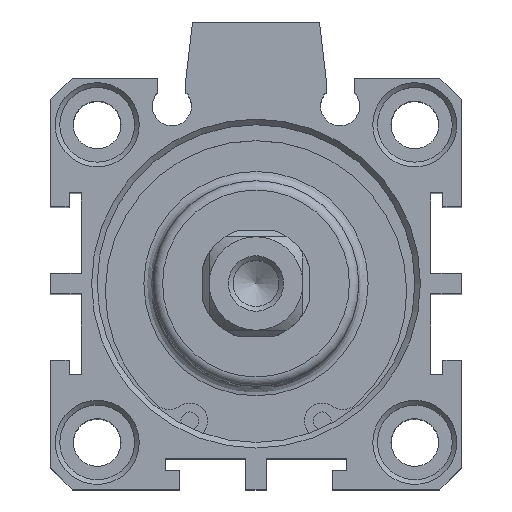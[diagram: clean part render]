
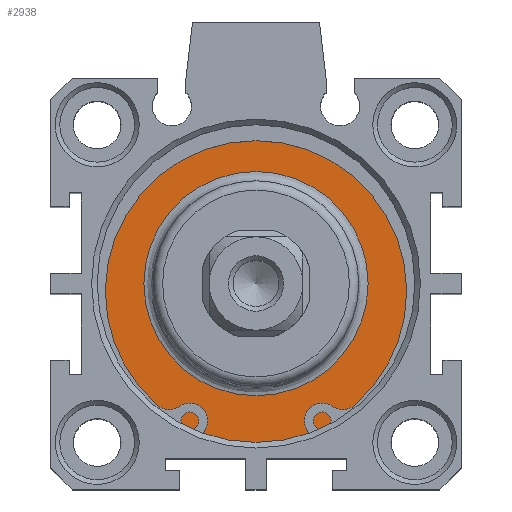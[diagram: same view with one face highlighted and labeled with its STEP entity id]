
A CAD part, top view. The second image highlights one B-rep face of the part: STEP entity #2938.
In plain terms, the highlighted planar face has unit normal (0, 0, 1).
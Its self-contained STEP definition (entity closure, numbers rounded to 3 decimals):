
#2887=CARTESIAN_POINT('',(-3.726,11.88,50.3));
#2888=VERTEX_POINT('',#2887);
#2889=CARTESIAN_POINT('',(-3.726,-0.12,50.3));
#2890=DIRECTION('',(0.0,0.0,1.0));
#2891=DIRECTION('',(0.0,-1.0,0.0));
#2892=AXIS2_PLACEMENT_3D('',#2889,#2890,#2891);
#2893=CIRCLE('',#2892,12.);
#2894=EDGE_CURVE('',#2888,#2888,#2893,.T.);
#2919=CARTESIAN_POINT('',(-3.726,13.88,50.3));
#2920=DIRECTION('',(0.0,0.0,1.0));
#2921=DIRECTION('',(1.0,0.0,0.0));
#2922=AXIS2_PLACEMENT_3D('',#2919,#2920,#2921);
#2923=PLANE('',#2922);
#2924=CARTESIAN_POINT('',(-3.726,16.88,50.3));
#2925=VERTEX_POINT('',#2924);
#2926=CARTESIAN_POINT('',(-3.726,-0.12,50.3));
#2927=DIRECTION('',(0.0,0.0,-1.0));
#2928=DIRECTION('',(0.0,1.0,0.0));
#2929=AXIS2_PLACEMENT_3D('',#2926,#2927,#2928);
#2930=CIRCLE('',#2929,17.0);
#2931=EDGE_CURVE('',#2925,#2925,#2930,.T.);
#2932=ORIENTED_EDGE('',*,*,#2931,.F.);
#2933=EDGE_LOOP('',(#2932));
#2934=FACE_OUTER_BOUND('',#2933,.T.);
#2935=ORIENTED_EDGE('',*,*,#2894,.F.);
#2936=EDGE_LOOP('',(#2935));
#2937=FACE_BOUND('',#2936,.T.);
#2938=ADVANCED_FACE('',(#2934,#2937),#2923,.T.);
